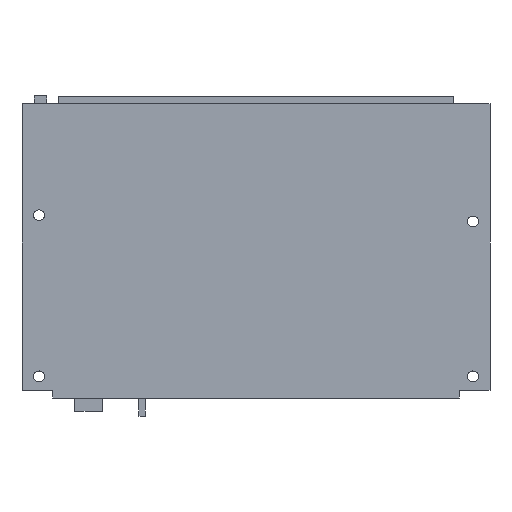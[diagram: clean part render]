
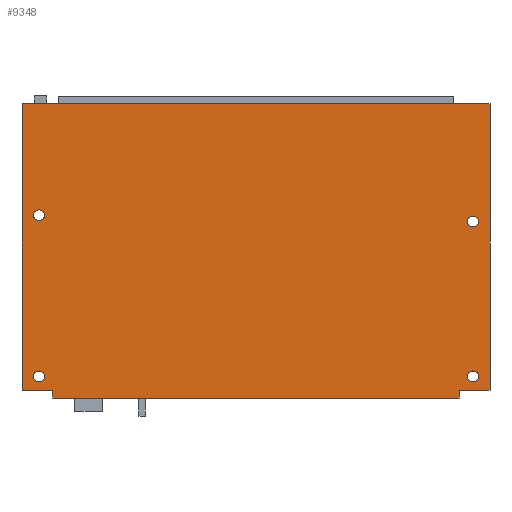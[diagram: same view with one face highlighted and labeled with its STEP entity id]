
A CAD part, front view. The second image highlights one B-rep face of the part: STEP entity #9348.
In plain terms, the highlighted planar face has unit normal (0, -1, 0).
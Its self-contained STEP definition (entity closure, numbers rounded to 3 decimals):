
#42 = CARTESIAN_POINT ( 'NONE',  ( -70., 0., 13.25 ) ) ;
#44 = CARTESIAN_POINT ( 'NONE',  ( -70., 0., 9.75 ) ) ;
#45 = CARTESIAN_POINT ( 'NONE',  ( 70., 0., 7.75 ) ) ;
#71 = CARTESIAN_POINT ( 'NONE',  ( 65.5, 0., -45. ) ) ;
#73 = CARTESIAN_POINT ( 'NONE',  ( -75.5, 0., 47.5 ) ) ;
#74 = CARTESIAN_POINT ( 'NONE',  ( -75.5, 0., -45. ) ) ;
#75 = CARTESIAN_POINT ( 'NONE',  ( 65.5, 0., -47.5 ) ) ;
#151 = CARTESIAN_POINT ( 'NONE',  ( -65.5, 0., -47.5 ) ) ;
#192 = CARTESIAN_POINT ( 'NONE',  ( 75.5, 0., -45. ) ) ;
#206 = CARTESIAN_POINT ( 'NONE',  ( 75.5, 0., 47.5 ) ) ;
#223 = CARTESIAN_POINT ( 'NONE',  ( -65.5, 0., -45. ) ) ;
#450 = CARTESIAN_POINT ( 'NONE',  ( -75.5, 0., -47.5 ) ) ;
#451 = DIRECTION ( 'NONE',  ( -1., 0., 0. ) ) ;
#580 = CARTESIAN_POINT ( 'NONE',  ( -75.5, 0., -47.5 ) ) ;
#618 = DIRECTION ( 'NONE',  ( 0., 0., 1. ) ) ;
#713 = CARTESIAN_POINT ( 'NONE',  ( 75.5, 0., -45. ) ) ;
#714 = DIRECTION ( 'NONE',  ( 1., 0., 0. ) ) ;
#739 = DIRECTION ( 'NONE',  ( 0., 1., 0. ) ) ;
#740 = DIRECTION ( 'NONE',  ( 0., 0., 1. ) ) ;
#1106 = DIRECTION ( 'NONE',  ( 0., 0., 1. ) ) ;
#1138 = CARTESIAN_POINT ( 'NONE',  ( -70., 0., 11.5 ) ) ;
#1139 = DIRECTION ( 'NONE',  ( 0., 1., 0. ) ) ;
#1377 = AXIS2_PLACEMENT_3D ( 'NONE', #3913, #3914, #3915 ) ;
#1795 = AXIS2_PLACEMENT_3D ( 'NONE', #9438, #9468, #9471 ) ;
#1796 = AXIS2_PLACEMENT_3D ( 'NONE', #9428, #9434, #9490 ) ;
#1797 = AXIS2_PLACEMENT_3D ( 'NONE', #6488, #6438, #6444 ) ;
#1800 = AXIS2_PLACEMENT_3D ( 'NONE', #1138, #1139, #1106 ) ;
#1802 = AXIS2_PLACEMENT_3D ( 'NONE', #9570, #739, #740 ) ;
#1804 = AXIS2_PLACEMENT_3D ( 'NONE', #9517, #9515, #9516 ) ;
#1811 = AXIS2_PLACEMENT_3D ( 'NONE', #3647, #3645, #3644 ) ;
#1812 = AXIS2_PLACEMENT_3D ( 'NONE', #3654, #3653, #3652 ) ;
#1992 = CARTESIAN_POINT ( 'NONE',  ( 75.5, 0., -47.5 ) ) ;
#2006 = DIRECTION ( 'NONE',  ( 0., 0., -1. ) ) ;
#2316 = FACE_OUTER_BOUND ( 'NONE', #7040, .T. ) ;
#2330 = FACE_BOUND ( 'NONE', #7039, .T. ) ;
#2331 = FACE_BOUND ( 'NONE', #7038, .T. ) ;
#2332 = FACE_BOUND ( 'NONE', #7037, .T. ) ;
#2333 = FACE_BOUND ( 'NONE', #7036, .T. ) ;
#2985 = EDGE_CURVE ( 'NONE', #8540, #8448, #5917, .T. ) ;
#2989 = EDGE_CURVE ( 'NONE', #8353, #8349, #5909, .T. ) ;
#3030 = EDGE_CURVE ( 'NONE', #8294, #8286, #5827, .T. ) ;
#3033 = EDGE_CURVE ( 'NONE', #8301, #8305, #5822, .T. ) ;
#3059 = EDGE_CURVE ( 'NONE', #8352, #8351, #5774, .T. ) ;
#3062 = EDGE_CURVE ( 'NONE', #8353, #8448, #5768, .T. ) ;
#3180 = EDGE_CURVE ( 'NONE', #8274, #8273, #5190, .T. ) ;
#3201 = EDGE_CURVE ( 'NONE', #8295, #8308, #5150, .T. ) ;
#3257 = EDGE_CURVE ( 'NONE', #8349, #8489, #4880, .T. ) ;
#3307 = EDGE_CURVE ( 'NONE', #8305, #8301, #4953, .T. ) ;
#3335 = EDGE_CURVE ( 'NONE', #8351, #8514, #4898, .T. ) ;
#3346 = EDGE_CURVE ( 'NONE', #8273, #8274, #4873, .T. ) ;
#3357 = EDGE_CURVE ( 'NONE', #8352, #8540, #4851, .T. ) ;
#3361 = EDGE_CURVE ( 'NONE', #8286, #8294, #4841, .T. ) ;
#3366 = EDGE_CURVE ( 'NONE', #8308, #8295, #4831, .T. ) ;
#3393 = EDGE_CURVE ( 'NONE', #8514, #8489, #4776, .T. ) ;
#3644 = DIRECTION ( 'NONE',  ( 0., 0., 1. ) ) ;
#3645 = DIRECTION ( 'NONE',  ( 0., 1., 0. ) ) ;
#3647 = CARTESIAN_POINT ( 'NONE',  ( -70., 0., 11.5 ) ) ;
#3652 = DIRECTION ( 'NONE',  ( 0., 0., 1. ) ) ;
#3653 = DIRECTION ( 'NONE',  ( 0., 1., 0. ) ) ;
#3654 = CARTESIAN_POINT ( 'NONE',  ( 70., 0., -40.5 ) ) ;
#3747 = DIRECTION ( 'NONE',  ( 0., 0., 1. ) ) ;
#3748 = CARTESIAN_POINT ( 'NONE',  ( 65.5, 0., -47.5 ) ) ;
#3756 = DIRECTION ( 'NONE',  ( 0., 0., -1. ) ) ;
#3757 = CARTESIAN_POINT ( 'NONE',  ( -65.5, 0., -47.5 ) ) ;
#3912 = PLANE ( 'NONE',  #1377 ) ;
#3913 = CARTESIAN_POINT ( 'NONE',  ( 75.5, 0., 47.5 ) ) ;
#3914 = DIRECTION ( 'NONE',  ( 0., 1., 0. ) ) ;
#3915 = DIRECTION ( 'NONE',  ( 0., 0., 1. ) ) ;
#4775 = VECTOR ( 'NONE', #2006, 1000. ) ;
#4776 = LINE ( 'NONE', #1992, #4775 ) ;
#4831 = CIRCLE ( 'NONE', #1795, 1.75 ) ;
#4841 = CIRCLE ( 'NONE', #1796, 1.75 ) ;
#4849 = VECTOR ( 'NONE', #9432, 1000. ) ;
#4851 = LINE ( 'NONE', #9489, #4849 ) ;
#4873 = CIRCLE ( 'NONE', #1797, 1.75 ) ;
#4880 = LINE ( 'NONE', #713, #4901 ) ;
#4897 = VECTOR ( 'NONE', #6427, 1000. ) ;
#4898 = LINE ( 'NONE', #6437, #4897 ) ;
#4901 = VECTOR ( 'NONE', #714, 1000. ) ;
#4953 = CIRCLE ( 'NONE', #1800, 1.75 ) ;
#5150 = CIRCLE ( 'NONE', #1802, 1.75 ) ;
#5190 = CIRCLE ( 'NONE', #1804, 1.75 ) ;
#5767 = VECTOR ( 'NONE', #451, 1000. ) ;
#5768 = LINE ( 'NONE', #450, #5767 ) ;
#5773 = VECTOR ( 'NONE', #618, 1000. ) ;
#5774 = LINE ( 'NONE', #580, #5773 ) ;
#5822 = CIRCLE ( 'NONE', #1811, 1.75 ) ;
#5827 = CIRCLE ( 'NONE', #1812, 1.75 ) ;
#5908 = VECTOR ( 'NONE', #3747, 1000. ) ;
#5909 = LINE ( 'NONE', #3748, #5908 ) ;
#5916 = VECTOR ( 'NONE', #3756, 1000. ) ;
#5917 = LINE ( 'NONE', #3757, #5916 ) ;
#6251 = CARTESIAN_POINT ( 'NONE',  ( 70., 0., -38.75 ) ) ;
#6258 = CARTESIAN_POINT ( 'NONE',  ( 70., 0., 11.25 ) ) ;
#6423 = CARTESIAN_POINT ( 'NONE',  ( 70., 0., -42.25 ) ) ;
#6427 = DIRECTION ( 'NONE',  ( 1., 0., 0. ) ) ;
#6437 = CARTESIAN_POINT ( 'NONE',  ( -75.5, 0., 47.5 ) ) ;
#6438 = DIRECTION ( 'NONE',  ( 0., 1., 0. ) ) ;
#6444 = DIRECTION ( 'NONE',  ( 0., 0., 1. ) ) ;
#6488 = CARTESIAN_POINT ( 'NONE',  ( -70., 0., -40.5 ) ) ;
#7036 = EDGE_LOOP ( 'NONE', ( #7732, #7733 ) ) ;
#7037 = EDGE_LOOP ( 'NONE', ( #7734, #7736 ) ) ;
#7038 = EDGE_LOOP ( 'NONE', ( #7738, #7739 ) ) ;
#7039 = EDGE_LOOP ( 'NONE', ( #7740, #7741 ) ) ;
#7040 = EDGE_LOOP ( 'NONE', ( #7742, #7743, #7744, #7745, #7746, #7747, #7748, #7750 ) ) ;
#7456 = CARTESIAN_POINT ( 'NONE',  ( -70., 0., -42.25 ) ) ;
#7463 = CARTESIAN_POINT ( 'NONE',  ( -70., 0., -38.75 ) ) ;
#7732 = ORIENTED_EDGE ( 'NONE', *, *, #3033, .T. ) ;
#7733 = ORIENTED_EDGE ( 'NONE', *, *, #3307, .T. ) ;
#7734 = ORIENTED_EDGE ( 'NONE', *, *, #3201, .T. ) ;
#7736 = ORIENTED_EDGE ( 'NONE', *, *, #3366, .T. ) ;
#7738 = ORIENTED_EDGE ( 'NONE', *, *, #3030, .T. ) ;
#7739 = ORIENTED_EDGE ( 'NONE', *, *, #3361, .T. ) ;
#7740 = ORIENTED_EDGE ( 'NONE', *, *, #3346, .T. ) ;
#7741 = ORIENTED_EDGE ( 'NONE', *, *, #3180, .T. ) ;
#7742 = ORIENTED_EDGE ( 'NONE', *, *, #2989, .T. ) ;
#7743 = ORIENTED_EDGE ( 'NONE', *, *, #3257, .T. ) ;
#7744 = ORIENTED_EDGE ( 'NONE', *, *, #3393, .F. ) ;
#7745 = ORIENTED_EDGE ( 'NONE', *, *, #3335, .F. ) ;
#7746 = ORIENTED_EDGE ( 'NONE', *, *, #3059, .F. ) ;
#7747 = ORIENTED_EDGE ( 'NONE', *, *, #3357, .T. ) ;
#7748 = ORIENTED_EDGE ( 'NONE', *, *, #2985, .T. ) ;
#7750 = ORIENTED_EDGE ( 'NONE', *, *, #3062, .F. ) ;
#8273 = VERTEX_POINT ( 'NONE', #7463 ) ;
#8274 = VERTEX_POINT ( 'NONE', #7456 ) ;
#8286 = VERTEX_POINT ( 'NONE', #6423 ) ;
#8294 = VERTEX_POINT ( 'NONE', #6251 ) ;
#8295 = VERTEX_POINT ( 'NONE', #6258 ) ;
#8301 = VERTEX_POINT ( 'NONE', #42 ) ;
#8305 = VERTEX_POINT ( 'NONE', #44 ) ;
#8308 = VERTEX_POINT ( 'NONE', #45 ) ;
#8349 = VERTEX_POINT ( 'NONE', #71 ) ;
#8351 = VERTEX_POINT ( 'NONE', #73 ) ;
#8352 = VERTEX_POINT ( 'NONE', #74 ) ;
#8353 = VERTEX_POINT ( 'NONE', #75 ) ;
#8448 = VERTEX_POINT ( 'NONE', #151 ) ;
#8489 = VERTEX_POINT ( 'NONE', #192 ) ;
#8514 = VERTEX_POINT ( 'NONE', #206 ) ;
#8540 = VERTEX_POINT ( 'NONE', #223 ) ;
#9348 = ADVANCED_FACE ( 'NONE', ( #2333, #2332, #2331, #2330, #2316 ), #3912, .F. ) ;
#9428 = CARTESIAN_POINT ( 'NONE',  ( 70., 0., -40.5 ) ) ;
#9432 = DIRECTION ( 'NONE',  ( 1., 0., 0. ) ) ;
#9434 = DIRECTION ( 'NONE',  ( 0., 1., 0. ) ) ;
#9438 = CARTESIAN_POINT ( 'NONE',  ( 70., 0., 9.5 ) ) ;
#9468 = DIRECTION ( 'NONE',  ( 0., 1., 0. ) ) ;
#9471 = DIRECTION ( 'NONE',  ( 0., 0., 1. ) ) ;
#9489 = CARTESIAN_POINT ( 'NONE',  ( -75.5, 0., -45. ) ) ;
#9490 = DIRECTION ( 'NONE',  ( 0., 0., 1. ) ) ;
#9515 = DIRECTION ( 'NONE',  ( 0., 1., 0. ) ) ;
#9516 = DIRECTION ( 'NONE',  ( 0., 0., 1. ) ) ;
#9517 = CARTESIAN_POINT ( 'NONE',  ( -70., 0., -40.5 ) ) ;
#9570 = CARTESIAN_POINT ( 'NONE',  ( 70., 0., 9.5 ) ) ;
